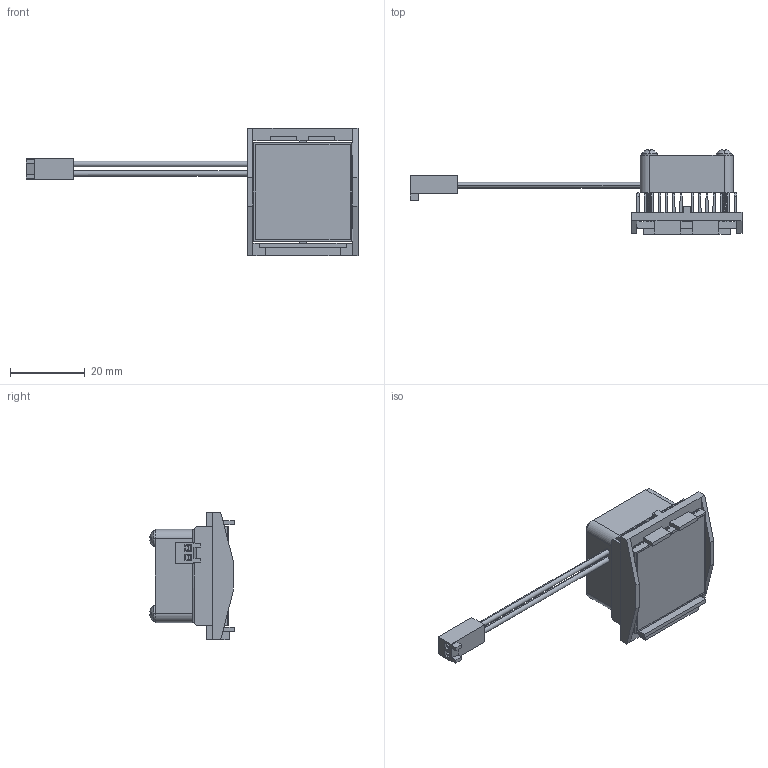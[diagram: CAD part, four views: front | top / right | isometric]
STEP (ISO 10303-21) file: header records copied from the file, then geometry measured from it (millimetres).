
FILE_DESCRIPTION (( 'STEP AP214' ), '1' );
FILE_NAME ('FI27-1.7+B.STEP', '2023-03-21T23:38:15', ( '' ), ( '' ), 'SwSTEP 2.0', 'SolidWorks 2020', '' );
FILE_SCHEMA (( 'AUTOMOTIVE_DESIGN' ));
Length unit declared in the file: millimetre
Products named in the file (1): FI27-1.7+B
Bounding box: 89 x 22.6 x 34.1 mm (x, y, z)
Volume: 8005.7 mm3; surface area: 15842.8 mm2
Topology: 8 solids, 8 shells, 855 faces, 2490 edges, 1656 vertices
Faces by surface type: cylinder 370, plane 307, bspline 122, cone 40, sphere 8, torus 8
Entity records: 63335 total; most frequent: CARTESIAN_POINT 34104, ORIENTED_EDGE 4980, DIRECTION 3289, EDGE_CURVE 2490, VERTEX_POINT 1656, VECTOR 1209, LINE 1209, AXIS2_PLACEMENT_3D 1040
